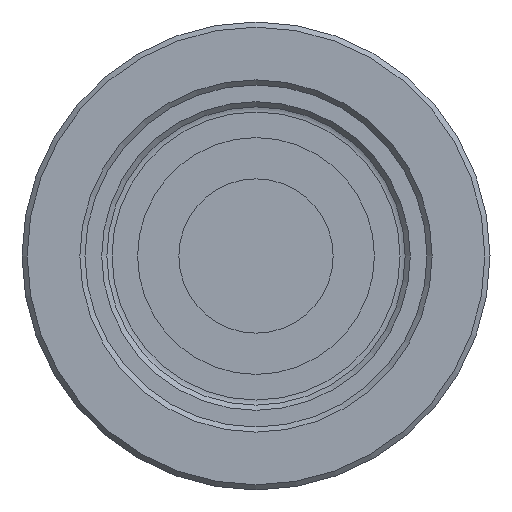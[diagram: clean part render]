
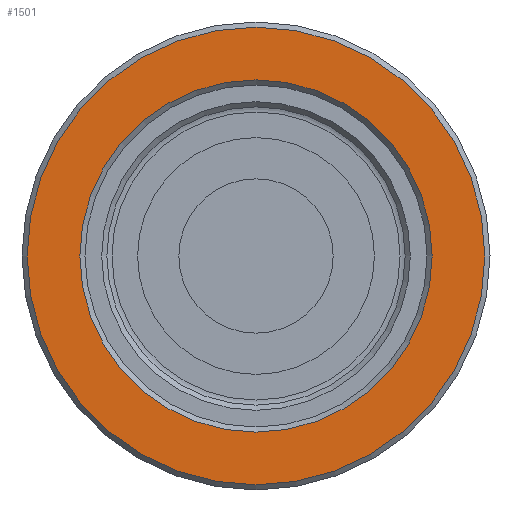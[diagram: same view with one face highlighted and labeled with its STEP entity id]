
A CAD part, left-side view. The second image highlights one B-rep face of the part: STEP entity #1501.
In plain terms, the highlighted planar face has unit normal (-1, 0, 0).
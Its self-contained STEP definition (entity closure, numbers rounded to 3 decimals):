
#153=PLANE('',#1640);
#453=VERTEX_POINT('',#3213);
#455=VERTEX_POINT('',#3219);
#534=CIRCLE('',#1637,34.25);
#536=CIRCLE('',#1641,44.5);
#723=EDGE_CURVE('',#453,#453,#534,.T.);
#725=EDGE_CURVE('',#455,#455,#536,.T.);
#1011=ORIENTED_EDGE('',*,*,#725,.F.);
#1012=ORIENTED_EDGE('',*,*,#723,.F.);
#1203=EDGE_LOOP('',(#1011));
#1204=EDGE_LOOP('',(#1012));
#1353=FACE_BOUND('',#1203,.T.);
#1354=FACE_BOUND('',#1204,.T.);
#1501=ADVANCED_FACE('',(#1353,#1354),#153,.T.);
#1637=AXIS2_PLACEMENT_3D('',#3212,#1964,#1965);
#1640=AXIS2_PLACEMENT_3D('',#3217,#1970,$);
#1641=AXIS2_PLACEMENT_3D('',#3218,#1971,#1972);
#1964=DIRECTION('',(-1.,0.,0.));
#1965=DIRECTION('',(0.,34.25,0.));
#1970=DIRECTION('',(-1.,0.,0.));
#1971=DIRECTION('',(1.,0.,0.));
#1972=DIRECTION('',(0.,-44.5,0.));
#3212=CARTESIAN_POINT('',(-120.,0.,0.));
#3213=CARTESIAN_POINT('',(-120.,-34.25,0.));
#3217=CARTESIAN_POINT('',(-120.,22.75,0.));
#3218=CARTESIAN_POINT('',(-120.,0.,0.));
#3219=CARTESIAN_POINT('',(-120.,44.5,0.));
